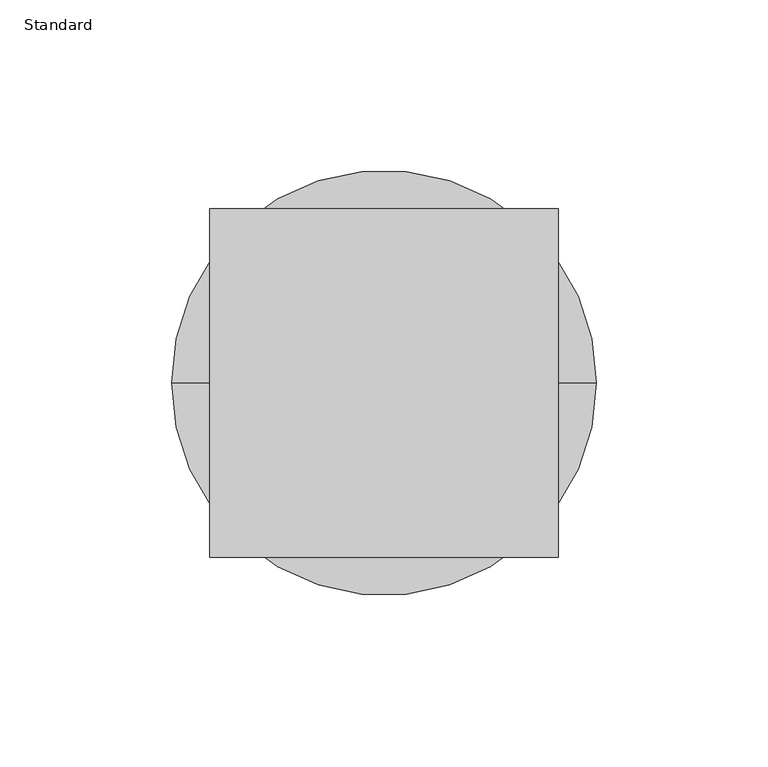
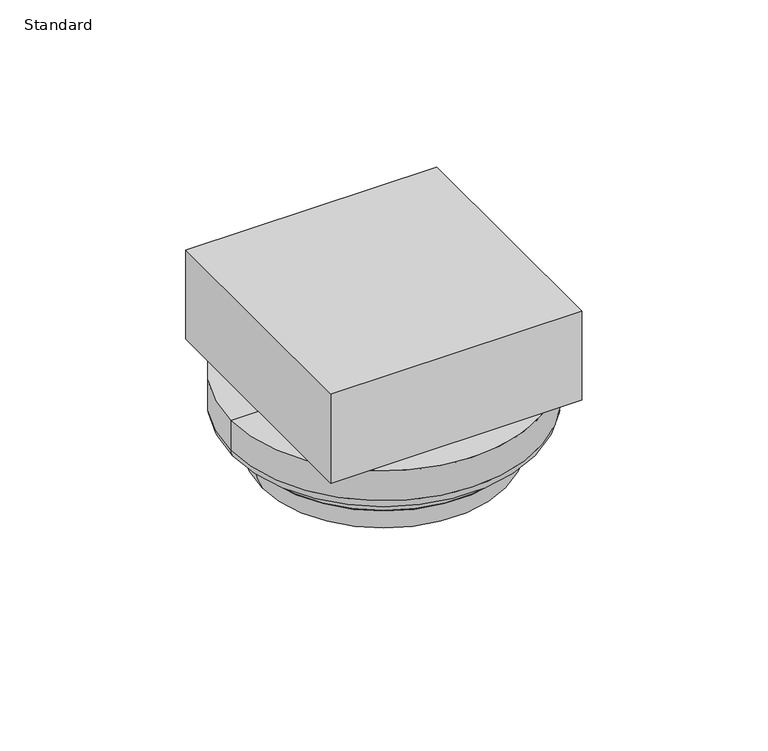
"""IFC4 building model written with IfcOpenShell, lengths in millimetres: alarm geometry, OMAHA - Heat Detector : Standard."""

from ifc_helpers import new_model, si_unit, point, frame, origin, origin_with_axes, place, context, project, spatial, polyline, circle_curve, ellipse_curve, trimmed, outline, extrude, source, transform, mapped, element, save
from ifc_brep_helpers import plane_surface, cylinder_surface, revolved_surface, advanced_brep


def standard_3bfecfd6(model_context):
    return source(origin(), model_context, "Body", "SolidModel", [
        extrude(outline(polyline([(50.8, 50.8), (50.8, -50.8), (-50.8, -50.8), (-50.8, 50.8), (50.8, 50.8)])), origin_with_axes(), (0.0, 0.0, 1.0), 38.1),
        advanced_brep(
        [(-46.0375, 0.0, 0.0), (46.0375, 0.0, 0.0), (46.0375, 0.0, -33.3375), (-46.0375, 0.0, -33.3375), (0.0, 0.0, 0.0), (0.0, 0.0, -42.8625)],
        [
            (0, 1, circle_curve(frame((0.0, 0.0, 0.0), z_axis=(0.0, 0.0, -1.0), x_axis=(1.0, 0.0, 0.0)), 46.0375)),
            (1, 2),
            (2, 3, circle_curve(frame((0.0, 0.0, -33.3375), z_axis=(0.0, 0.0, 1.0), x_axis=(1.0, 0.0, 0.0)), 46.0375)),
            (3, 0),
            (1, 0, circle_curve(frame((0.0, 0.0, 0.0), z_axis=(0.0, 0.0, -1.0), x_axis=(1.0, 0.0, 0.0)), 46.0375)),
            (3, 2, circle_curve(frame((0.0, 0.0, -33.3375), z_axis=(0.0, 0.0, 1.0), x_axis=(1.0, 0.0, 0.0)), 46.0375)),
            (4, 1),
            (0, 4),
            (2, 5, circle_curve(frame((2.3341045, 0.0, 61.8757868), z_axis=(0.0, 1.0, 0.0), x_axis=(1.0, 0.0, 0.0)), 104.7642915)),
            (5, 3, circle_curve(frame((-2.3341045, 0.0, 61.8757868), z_axis=(0.0, 1.0, 0.0), x_axis=(-1.0, 0.0, 0.0)), 104.7642915)),
        ],
        [
            cylinder_surface(frame((0.0, 0.0, 2620.2695255), z_axis=(0.0, 0.0, 1.0), x_axis=(1.0, 0.0, 0.0)), 46.0375),
            plane_surface(origin_with_axes()),
            revolved_surface(trimmed(ellipse_curve(frame((2.3341045, 0.0, 61.8757868), z_axis=(0.0, -1.0, 0.0), x_axis=(1.0, 0.0, 0.0)), 104.7642915, 104.7642915), [point((0.0, 0.0, -42.8625))], [point((46.0375, 0.0, -33.3375))], True, "CARTESIAN"), (0.0, 0.0, 2620.2695255), (0.0, 0.0, 1.0)),
        ],
        [
            (0, [[1, 2, 3, 4]]),
            (0, [[5, -4, 6, -2]]),
            (1, [[7, -1, 8]]),
            (1, [[-8, -5, -7]]),
            (2, [[-3, 9, 10]]),
            (2, [[-6, -10, -9]]),
        ],
    ),
        advanced_brep(
        [(-52.3875, 0.0, -23.8125), (52.3875, 0.0, -23.8125), (49.2125, 0.0, -33.3375), (-49.2125, 0.0, -33.3375), (0.0, 0.0, -23.8125), (0.0, 0.0, -33.3375)],
        [
            (0, 1, circle_curve(frame((0.0, 0.0, -23.8125), z_axis=(0.0, 0.0, -1.0), x_axis=(1.0, 0.0, 0.0)), 52.3875)),
            (1, 2, circle_curve(frame((24.3613837, 0.0, -19.7621279), z_axis=(0.0, 1.0, 0.0), x_axis=(1.0, 0.0, 0.0)), 28.3172864)),
            (2, 3, circle_curve(frame((0.0, 0.0, -33.3375), z_axis=(0.0, 0.0, 1.0), x_axis=(1.0, 0.0, 0.0)), 49.2125)),
            (3, 0, circle_curve(frame((-24.3613837, 0.0, -19.7621279), z_axis=(0.0, 1.0, 0.0), x_axis=(-1.0, 0.0, 0.0)), 28.3172864)),
            (1, 0, circle_curve(frame((0.0, 0.0, -23.8125), z_axis=(0.0, 0.0, -1.0), x_axis=(1.0, 0.0, 0.0)), 52.3875)),
            (3, 2, circle_curve(frame((0.0, 0.0, -33.3375), z_axis=(0.0, 0.0, 1.0), x_axis=(1.0, 0.0, 0.0)), 49.2125)),
            (4, 1),
            (0, 4),
            (2, 5),
            (5, 3),
        ],
        [
            revolved_surface(trimmed(ellipse_curve(frame((24.3613837, 0.0, -19.7621279), z_axis=(0.0, -1.0, 0.0), x_axis=(1.0, 0.0, 0.0)), 28.3172864, 28.3172864), [point((49.2125, 0.0, -33.3375))], [point((52.3875, 0.0, -23.8125))], True, "CARTESIAN"), (0.0, 0.0, 2609.0581012), (0.0, 0.0, 1.0)),
            plane_surface(frame((0.0, 0.0, -23.8125), z_axis=(0.0, 0.0, 1.0), x_axis=(1.0, 0.0, 0.0))),
            plane_surface(frame((0.0, 0.0, -33.3375), z_axis=(0.0, 0.0, -1.0), x_axis=(1.0, 0.0, 0.0))),
        ],
        [
            (0, [[1, 2, 3, 4]]),
            (0, [[5, -4, 6, -2]]),
            (1, [[7, -1, 8]]),
            (1, [[-8, -5, -7]]),
            (2, [[-3, 9, 10]]),
            (2, [[-6, -10, -9]]),
        ],
    ),
        advanced_brep(
        [(-61.9125, 0.0, 0.0), (61.9125, 0.0, 0.0), (61.9125, 0.0, -12.7), (-61.9125, 0.0, -12.7), (0.0, 0.0, 0.0), (-52.3875, 0.0, -23.8125), (52.3875, 0.0, -23.8125), (0.0, 0.0, -23.8125), (-56.4746165, 0.0, -18.0869784), (56.4746165, 0.0, -18.0869784), (-58.5584801, 0.0, -17.4523584), (58.5584801, 0.0, -17.4523584)],
        [
            (0, 1, circle_curve(frame((0.0, 0.0, 0.0), z_axis=(0.0, 0.0, -1.0), x_axis=(1.0, 0.0, 0.0)), 61.9125)),
            (1, 2),
            (2, 3, circle_curve(frame((0.0, 0.0, -12.7), z_axis=(0.0, 0.0, 1.0), x_axis=(1.0, 0.0, 0.0)), 61.9125)),
            (3, 0),
            (1, 0, circle_curve(frame((0.0, 0.0, 0.0), z_axis=(0.0, 0.0, -1.0), x_axis=(1.0, 0.0, 0.0)), 61.9125)),
            (3, 2, circle_curve(frame((0.0, 0.0, -12.7), z_axis=(0.0, 0.0, 1.0), x_axis=(1.0, 0.0, 0.0)), 61.9125)),
            (4, 1),
            (0, 4),
            (5, 6, circle_curve(frame((0.0, 0.0, -23.8125), z_axis=(0.0, 0.0, -1.0), x_axis=(1.0, 0.0, 0.0)), 52.3875)),
            (6, 7),
            (7, 5),
            (6, 5, circle_curve(frame((0.0, 0.0, -23.8125), z_axis=(0.0, 0.0, -1.0), x_axis=(1.0, 0.0, 0.0)), 52.3875)),
            (8, 9, circle_curve(frame((0.0, 0.0, -18.0869784), z_axis=(0.0, 0.0, -1.0), x_axis=(1.0, 0.0, 0.0)), 56.4746165)),
            (9, 6, circle_curve(frame((58.4928982, 0.0, -23.8492502), z_axis=(0.0, -1.0, 0.0), x_axis=(1.0, 0.0, 0.0)), 6.1055089)),
            (5, 8, circle_curve(frame((-58.4928982, 0.0, -23.8492502), z_axis=(0.0, -1.0, 0.0), x_axis=(-1.0, 0.0, 0.0)), 6.1055089)),
            (9, 8, circle_curve(frame((0.0, 0.0, -18.0869784), z_axis=(0.0, 0.0, -1.0), x_axis=(1.0, 0.0, 0.0)), 56.4746165)),
            (10, 11, circle_curve(frame((0.0, 0.0, -17.4523584), z_axis=(0.0, 0.0, -1.0), x_axis=(1.0, 0.0, 0.0)), 58.5584801)),
            (11, 9),
            (8, 10),
            (11, 10, circle_curve(frame((0.0, 0.0, -17.4523584), z_axis=(0.0, 0.0, -1.0), x_axis=(1.0, 0.0, 0.0)), 58.5584801)),
            (2, 11, circle_curve(frame((56.868648, 0.0, -12.7), z_axis=(0.0, 1.0, 0.0), x_axis=(1.0, 0.0, 0.0)), 5.043852)),
            (10, 3, circle_curve(frame((-56.868648, 0.0, -12.7), z_axis=(0.0, 1.0, 0.0), x_axis=(-1.0, 0.0, 0.0)), 5.043852)),
        ],
        [
            cylinder_surface(frame((0.0, 0.0, 2609.0581012), z_axis=(0.0, 0.0, 1.0), x_axis=(1.0, 0.0, 0.0)), 61.9125),
            plane_surface(origin_with_axes()),
            plane_surface(frame((0.0, 0.0, -23.8125), z_axis=(0.0, 0.0, -1.0), x_axis=(1.0, 0.0, 0.0))),
            revolved_surface(trimmed(ellipse_curve(frame((58.4928982, 0.0, -23.8492502), z_axis=(0.0, 1.0, 0.0), x_axis=(1.0, 0.0, 0.0)), 6.1055089, 6.1055089), [point((52.3875, 0.0, -23.8125))], [point((56.4746165, 0.0, -18.0869784))], True, "CARTESIAN"), (0.0, 0.0, 2609.0581012), (0.0, 0.0, 1.0)),
            revolved_surface(polyline([(56.4746165, 0.0, -18.0869784), (58.5584801, 0.0, -17.4523584)]), (0.0, 0.0, 2609.0581012), (0.0, 0.0, 1.0)),
            revolved_surface(trimmed(ellipse_curve(frame((56.868648, 0.0, -12.7), z_axis=(0.0, -1.0, 0.0), x_axis=(1.0, 0.0, 0.0)), 5.043852, 5.043852), [point((58.5584801, 0.0, -17.4523584))], [point((61.9125, 0.0, -12.7))], True, "CARTESIAN"), (0.0, 0.0, 2609.0581012), (0.0, 0.0, 1.0)),
        ],
        [
            (0, [[1, 2, 3, 4]]),
            (0, [[5, -4, 6, -2]]),
            (1, [[7, -1, 8]]),
            (1, [[-8, -5, -7]]),
            (2, [[9, 10, 11]]),
            (2, [[12, -11, -10]]),
            (3, [[13, 14, -9, 15]]),
            (3, [[16, -15, -12, -14]]),
            (4, [[17, 18, -13, 19]]),
            (4, [[20, -19, -16, -18]]),
            (5, [[-3, 21, -17, 22]]),
            (5, [[-6, -22, -20, -21]]),
        ],
    ),
    ])


if __name__ == "__main__":
    model = new_model("IFC4")
    model_context = context("Model", 3, world=origin())
    ifc_project = project(units=[si_unit("LENGTHUNIT", "METRE", prefix="MILLI")], contexts=[model_context])
    site = spatial("IfcSite", under=ifc_project)
    building = spatial("IfcBuilding", under=site)
    placement = place(None, origin())
    standard_shape = standard_3bfecfd6(model_context)
    element("IfcAlarm", 1, ObjectType="OMAHA - Heat Detector : Standard", at=placement, inside=building, context=model_context, shape_type="MappedRepresentation", body=[
        mapped(standard_shape, transform((0.0, 0.0, 0.0), x_axis=(1.0, 0.0, 0.0), y_axis=(0.0, 1.0, 0.0), z_axis=(0.0, 0.0, 1.0))),
    ])
    save(model, "model.ifc")
